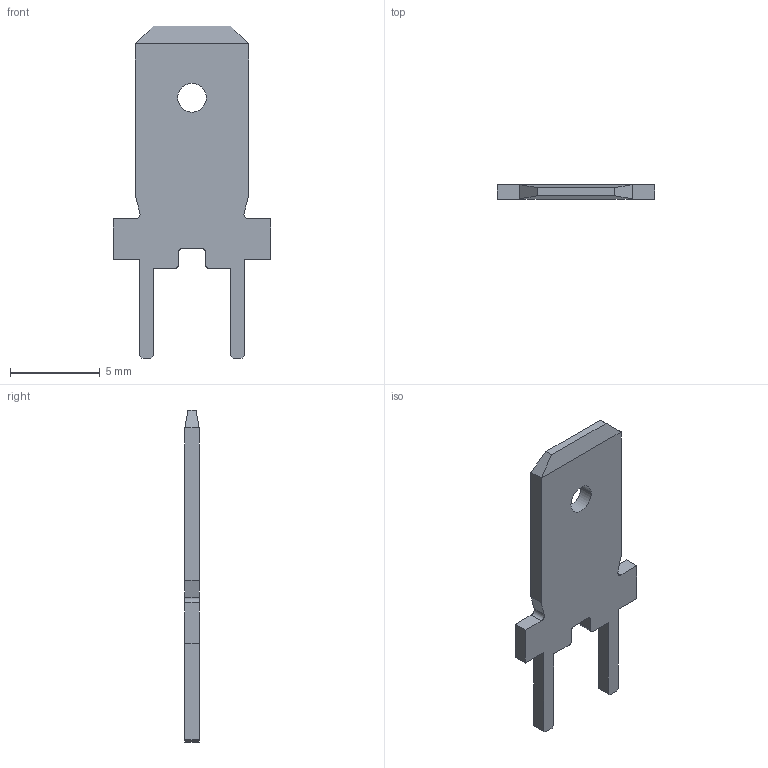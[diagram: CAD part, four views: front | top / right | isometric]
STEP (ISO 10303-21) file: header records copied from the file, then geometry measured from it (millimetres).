
FILE_DESCRIPTION((''),'2;1');
FILE_NAME('C-216926-1','2019-09-24T02:59:58',('workeradm'),('TE Connectivity Ltd.'),'CREO PARAMETRIC BY PTC INC, 2019030','CREO PARAMETRIC BY PTC INC, 2019030','');
FILE_SCHEMA(('AUTOMOTIVE_DESIGN { 1 0 10303 214 1 1 1 1 }'));
Length unit declared in the file: millimetre
Products named in the file (1): C-216926-1
Bounding box: 8.8 x 0.8 x 18.5 mm (x, y, z)
Volume: 73.8 mm3; surface area: 241.3 mm2
Topology: 1 solids, 1 shells, 40 faces, 111 edges, 74 vertices
Faces by surface type: plane 32, cylinder 8
Entity records: 1460 total; most frequent: CARTESIAN_POINT 226, ORIENTED_EDGE 220, DIRECTION 209, COLOUR_RGB 127, EDGE_CURVE 110, VECTOR 95, LINE 95, VERTEX_POINT 72
